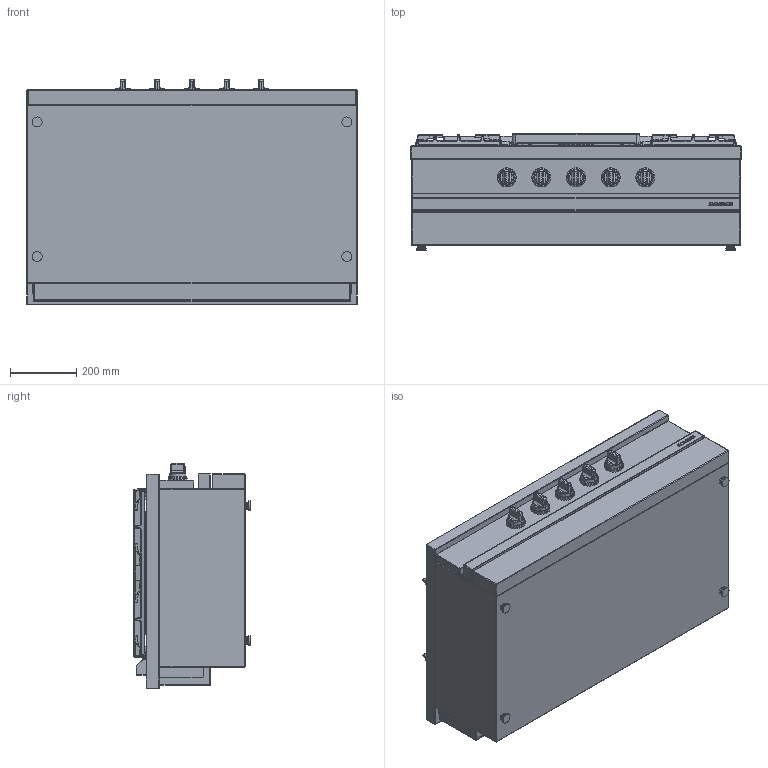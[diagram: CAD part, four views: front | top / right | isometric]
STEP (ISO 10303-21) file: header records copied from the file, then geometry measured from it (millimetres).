
FILE_DESCRIPTION((''),'2;1');
FILE_NAME('CSG1050CF_EXPORT_STEP_ASM','2017-11-22T',('r.avril'),(''),'PRO/ENGINEER BY PARAMETRIC TECHNOLOGY CORPORATION, 2014200','PRO/ENGINEER BY PARAMETRIC TECHNOLOGY CORPORATION, 2014200','');
FILE_SCHEMA(('AP203_CONFIGURATION_CONTROLLED_3D_DESIGN_OF_MECHANICAL_PARTS_AND_ASSEMBLIES_MIM_LF { 1 0 10303 403 2 1 2 }'));
Products named in the file (15): SNACKS_AMB_1000_EXPORT_STEP; TABLE_1000_CLASSIQUE; 3KW; 5KW; 1_5KW; 4KW; 65062008; 65062012; 65149005; 90000549_ASM; 6537024; 90000487_ASM; TABLE_1000_TRADITION_ASM; MANETTE_AMB_EXPORT_STEP; CSG1050CF_EXPORT_STEP_ASM
Assembly tree (27 placements, depth 4):
  CSG1050CF_EXPORT_STEP_ASM
    SNACKS_AMB_1000_EXPORT_STEP
    TABLE_1000_TRADITION_ASM
      TABLE_1000_CLASSIQUE
      3KW  x2
      5KW
      1_5KW
      4KW
      90000549_ASM
        65062008
        65062012
        65149005  x4
      90000487_ASM  x2
        6537024
        65149005
    MANETTE_AMB_EXPORT_STEP  x5
Bounding box: 1000 x 352 x 682.5 mm (x, y, z)
Volume: 74825034.7 mm3; surface area: 5896525.1 mm2
Topology: 36 solids, 54 shells, 4844 faces, 13135 edges, 8793 vertices
Faces by surface type: plane 2083, cylinder 1108, bspline 976, cone 267, sphere 192, torus 178, extrusion 40
Entity records: 166519 total; most frequent: CARTESIAN_POINT 48094, ORIENTED_EDGE 18308, DIRECTION 16476, EDGE_CURVE 9379, PRESENTATION_STYLE_ASSIGNMENT 8686, STYLED_ITEM 8686, CURVE_STYLE 8562, VECTOR 6367
